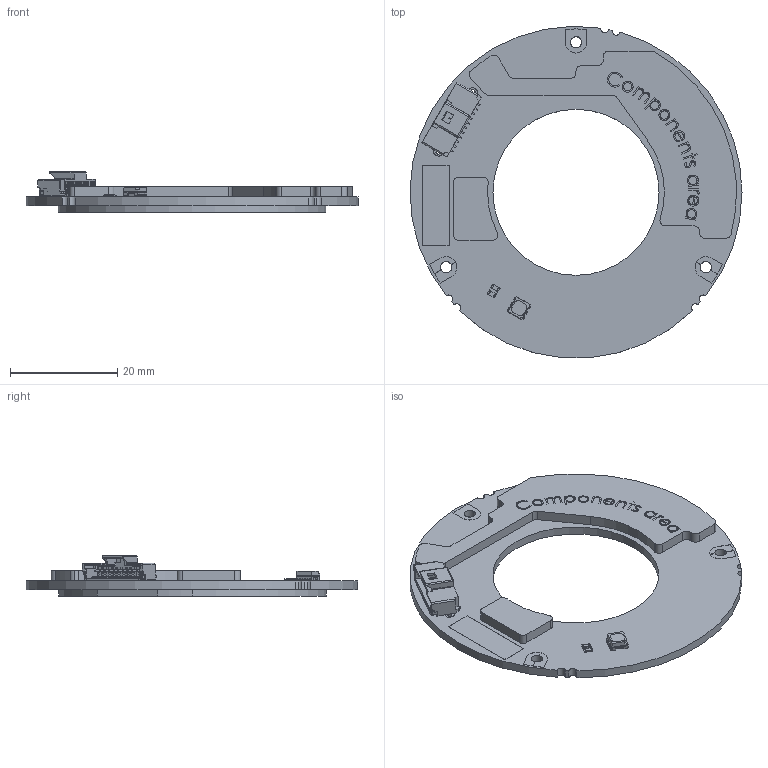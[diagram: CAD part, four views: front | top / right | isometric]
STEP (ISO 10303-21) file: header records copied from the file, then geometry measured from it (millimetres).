
FILE_DESCRIPTION (( 'STEP AP214' ), '1' );
FILE_NAME ('Orbis_ID30_BBM_v00_s_konektorjem_pokrov.step', '2024-01-23T06:54:00', ( '' ), ( '' ), 'SwSTEP 2.0', 'SolidWorks 2022', '' );
FILE_SCHEMA (( 'AUTOMOTIVE_DESIGN' ));
Length unit declared in the file: millimetre
Products named in the file (1): Orbis_ID30_BBM_v00_s_konektorjem_pokrov
Bounding box: 62 x 61.88 x 7.55 mm (x, y, z)
Volume: 6043.9 mm3; surface area: 6568 mm2
Topology: 11 solids, 11 shells, 2192 faces, 5943 edges, 3830 vertices
Faces by surface type: plane 1578, cylinder 272, bspline 250, cone 92
Entity records: 103270 total; most frequent: CARTESIAN_POINT 24911, ORIENTED_EDGE 11884, DIRECTION 10016, EDGE_CURVE 5942, VECTOR 4722, LINE 4722, VERTEX_POINT 3830, AXIS2_PLACEMENT_3D 2647
